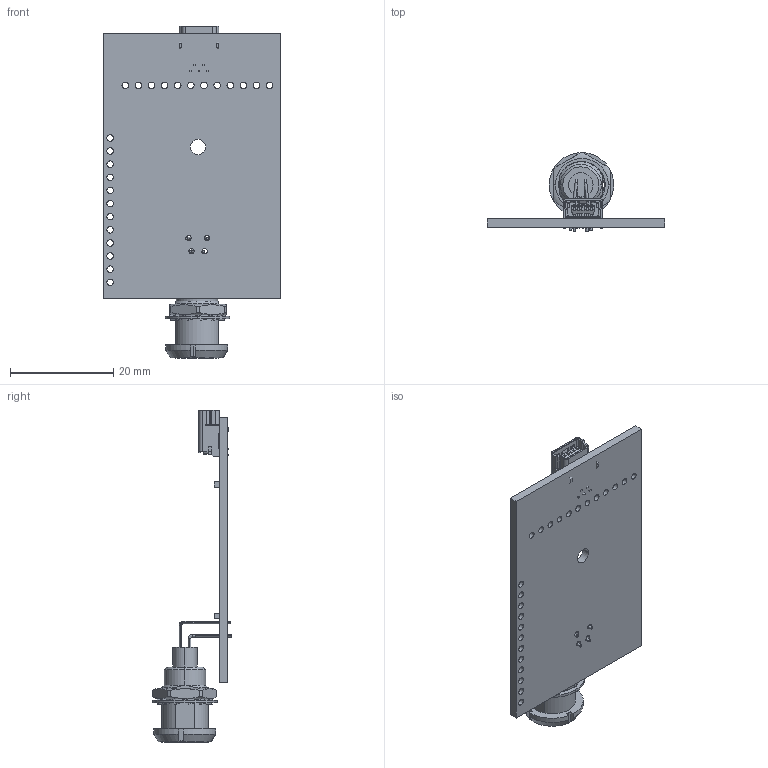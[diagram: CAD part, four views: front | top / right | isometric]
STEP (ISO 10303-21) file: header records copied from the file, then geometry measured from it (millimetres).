
FILE_DESCRIPTION (( 'STEP AP214' ), '1' );
FILE_NAME ('ES3_PCB+LEMO.STEP', '2018-02-19T14:14:08', ( '' ), ( '' ), 'SwSTEP 2.0', 'SolidWorks 2018', '' );
FILE_SCHEMA (( 'AUTOMOTIVE_DESIGN' ));
Length unit declared in the file: millimetre
Products named in the file (9): ecg_0b_304_clv_03^ecg_0b_304_clv_ES3_PCB+LEMO(2)_ES3_PCB+LEMO; ecg_0b_304_clv_02^ecg_0b_304_clv_ES3_PCB+LEMO(2)_ES3_PCB+LEMO; Mini-USB-recept^ES3_PCB+LEMO(2)_ES3_PCB+LEMO; EmStat3_PCB^ES3_PCB+LEMO(2)_ES3_PCB+LEMO; ES3_PCB+LEMO; ecg_0b_304_clv_01^ecg_0b_304_clv_ES3_PCB+LEMO(2)_ES3_PCB+LEMO; ecg_0b_304_clv_04^ecg_0b_304_clv_ES3_PCB+LEMO(2)_ES3_PCB+LEMO; ES3_PCB+LEMO(2)^ES3_PCB+LEMO; ecg_0b_304_clv^ES3_PCB+LEMO(2)_ES3_PCB+LEMO
Assembly tree (8 placements, depth 4):
  ES3_PCB+LEMO
    ES3_PCB+LEMO(2)^ES3_PCB+LEMO
      ecg_0b_304_clv^ES3_PCB+LEMO(2)_ES3_PCB+LEMO
        ecg_0b_304_clv_02^ecg_0b_304_clv_ES3_PCB+LEMO(2)_ES3_PCB+LEMO
        ecg_0b_304_clv_03^ecg_0b_304_clv_ES3_PCB+LEMO(2)_ES3_PCB+LEMO
        ecg_0b_304_clv_04^ecg_0b_304_clv_ES3_PCB+LEMO(2)_ES3_PCB+LEMO
        ecg_0b_304_clv_01^ecg_0b_304_clv_ES3_PCB+LEMO(2)_ES3_PCB+LEMO
      EmStat3_PCB^ES3_PCB+LEMO(2)_ES3_PCB+LEMO
      Mini-USB-recept^ES3_PCB+LEMO(2)_ES3_PCB+LEMO
Bounding box: 34.3 x 15.27 x 64.24 mm (x, y, z)
Volume: 3781.9 mm3; surface area: 6168.5 mm2
Topology: 6 solids, 6 shells, 707 faces, 1963 edges, 1266 vertices
Faces by surface type: plane 409, cylinder 221, bspline 57, cone 14, torus 6
Entity records: 25826 total; most frequent: CARTESIAN_POINT 6815, ORIENTED_EDGE 3926, DIRECTION 3488, EDGE_CURVE 1963, VECTOR 1346, LINE 1346, VERTEX_POINT 1266, AXIS2_PLACEMENT_3D 1071
